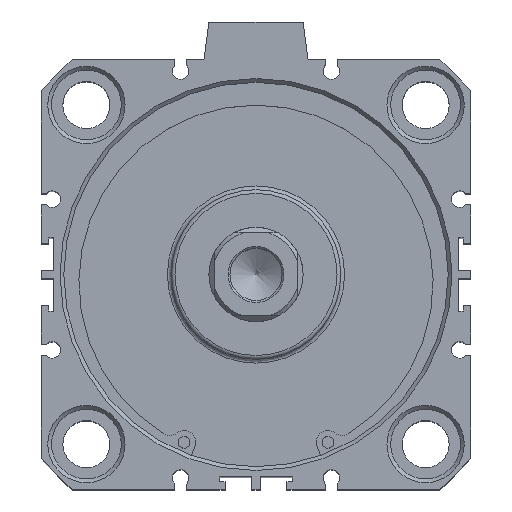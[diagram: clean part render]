
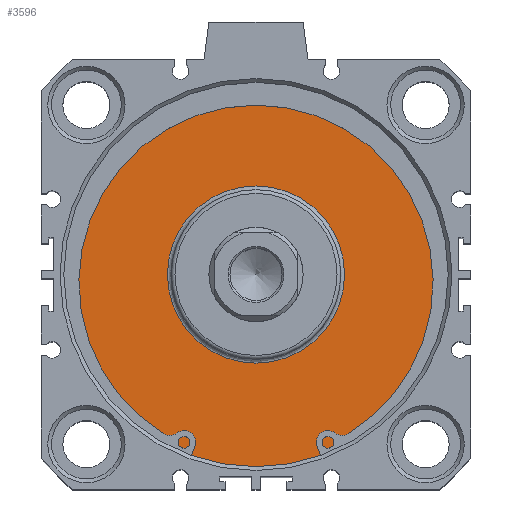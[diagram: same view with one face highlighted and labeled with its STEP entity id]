
A CAD part, top view. The second image highlights one B-rep face of the part: STEP entity #3596.
In plain terms, the highlighted planar face has unit normal (0, 0, 1).
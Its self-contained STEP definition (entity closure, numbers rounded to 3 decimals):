
#3545=CARTESIAN_POINT('',(0.957,25.414,97.6));
#3546=VERTEX_POINT('',#3545);
#3547=CARTESIAN_POINT('',(0.957,1.914,97.6));
#3548=DIRECTION('',(0.0,0.0,1.0));
#3549=DIRECTION('',(0.0,-1.0,0.0));
#3550=AXIS2_PLACEMENT_3D('',#3547,#3548,#3549);
#3551=CIRCLE('',#3550,23.5);
#3552=EDGE_CURVE('',#3546,#3546,#3551,.T.);
#3577=CARTESIAN_POINT('',(0.957,38.664,97.6));
#3578=DIRECTION('',(0.0,0.0,1.0));
#3579=DIRECTION('',(1.0,0.0,0.0));
#3580=AXIS2_PLACEMENT_3D('',#3577,#3578,#3579);
#3581=PLANE('',#3580);
#3582=CARTESIAN_POINT('',(0.957,52.914,97.6));
#3583=VERTEX_POINT('',#3582);
#3584=CARTESIAN_POINT('',(0.957,1.914,97.6));
#3585=DIRECTION('',(0.0,0.0,-1.0));
#3586=DIRECTION('',(0.0,1.0,0.0));
#3587=AXIS2_PLACEMENT_3D('',#3584,#3585,#3586);
#3588=CIRCLE('',#3587,51.);
#3589=EDGE_CURVE('',#3583,#3583,#3588,.T.);
#3590=ORIENTED_EDGE('',*,*,#3589,.F.);
#3591=EDGE_LOOP('',(#3590));
#3592=FACE_OUTER_BOUND('',#3591,.T.);
#3593=ORIENTED_EDGE('',*,*,#3552,.F.);
#3594=EDGE_LOOP('',(#3593));
#3595=FACE_BOUND('',#3594,.T.);
#3596=ADVANCED_FACE('',(#3592,#3595),#3581,.T.);
